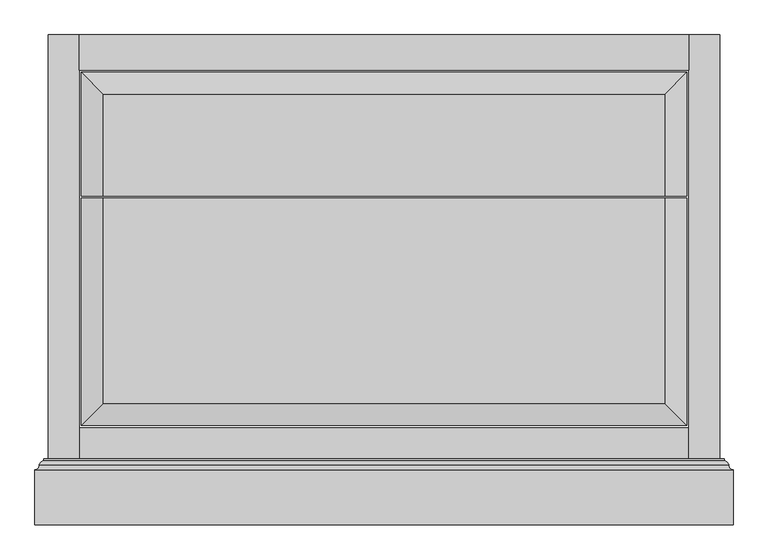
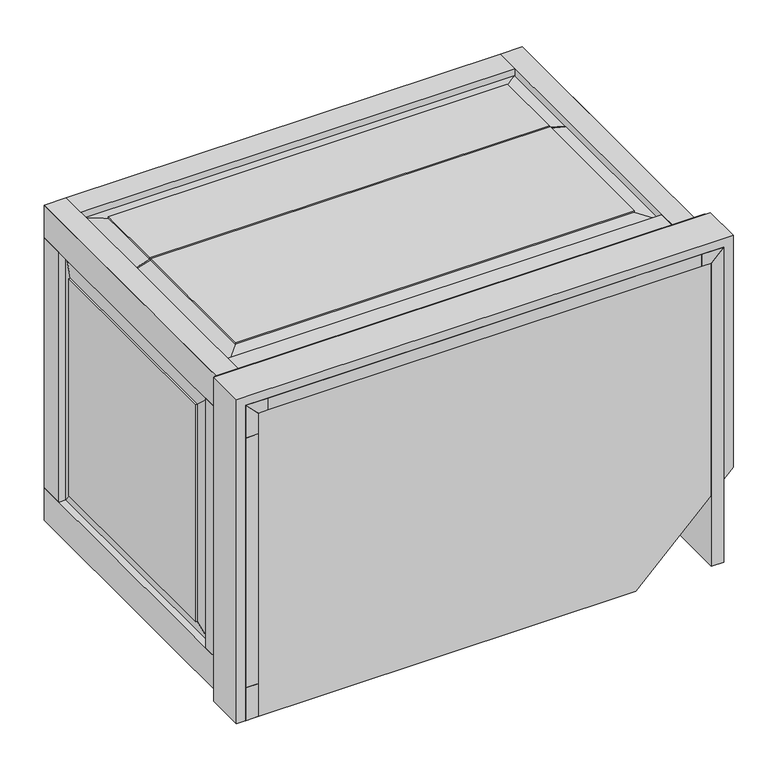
"""IFC4 building model written with IfcOpenShell, lengths in millimetres: proxy geometry, CCN^BRIGHTON_L4-36 LATERA FILE-LEFT PED PARTS SOLID."""

from ifc_helpers import new_model, si_unit, frame, origin, place, context, project, spatial, polyline, circle_curve, ellipse_curve, outline, extrude, faceted_brep, source, transform, mapped, element, save
from ifc_brep_helpers import plane_surface, cylinder_surface, revolved_surface, advanced_brep


def generic_models_85007257(model_context):
    return source(origin(), model_context, "Body", "SolidModel", [
        extrude(outline(polyline([(-2489.2, 0.0), (-2463.8, 0.0), (-2463.8, -50.8), (-2489.2, -50.8), (-2489.2, 0.0)])), frame((0.0, 0.0, -603.25), z_axis=(0.0, 0.0, 1.0), x_axis=(1.0, 0.0, 0.0)), (0.0, 0.0, 1.0), 533.4),
        extrude(outline(polyline([(-1549.4, -584.2), (-2463.8, -584.2), (-2463.8, -565.15), (-1549.4, -565.15), (-1549.4, -584.2)])), frame((0.0, 0.0, -673.1), z_axis=(0.0, 0.0, 1.0), x_axis=(1.0, 0.0, 0.0)), (0.0, 0.0, 1.0), 647.7),
        extrude(outline(polyline([(-2463.8, -704.85), (-2489.2, -704.85), (-2489.2, 0.0), (-2463.8, 0.0), (-2463.8, -704.85)])), frame((0.0, 0.0, -673.1), z_axis=(0.0, 0.0, 1.0), x_axis=(1.0, 0.0, 0.0)), (0.0, 0.0, 1.0), 69.85),
        faceted_brep([(-2486.025, -530.225, -568.325), (-2489.2, -530.225, -568.325), (-2489.2, -85.725, -568.325), (-2486.025, -85.725, -568.325), (-2477.5176131, -561.975, -600.075), (-2477.5176131, -53.975, -600.075), (-2470.15, -561.975, -600.075), (-2470.15, -53.975, -600.075), (-2486.025, -530.225, -104.775), (-2489.2, -530.225, -104.775), (-2477.5176131, -561.975, -73.025), (-2470.15, -561.975, -73.025), (-2470.15, -50.8, -69.85), (-2470.15, -50.8, -603.25), (-2470.15, -565.15, -603.25), (-2470.15, -565.15, -69.85), (-2470.15, -53.975, -73.025), (-2486.025, -85.725, -104.775), (-2489.2, -85.725, -104.775), (-2477.5176131, -53.975, -73.025), (-2463.8, -50.8, -603.25), (-2463.8, -565.15, -603.25), (-2463.8, -565.15, -69.85), (-2463.8, -50.8, -69.85)], [[[0, 1, 2, 3]], [[4, 0, 3, 5]], [[6, 4, 5, 7]], [[8, 9, 1, 0]], [[10, 8, 0, 4]], [[11, 10, 4, 6]], [[12, 13, 14, 15], [16, 11, 6, 7]], [[17, 18, 9, 8]], [[19, 17, 8, 10]], [[16, 19, 10, 11]], [[3, 2, 18, 17]], [[5, 3, 17, 19]], [[7, 5, 19, 16]], [[14, 13, 20, 21]], [[15, 14, 21, 22]], [[13, 12, 23, 20]], [[12, 15, 22, 23]], [[2, 1, 9, 18]], [[22, 21, 20, 23]]]),
        extrude(outline(polyline([(-1568.45, 0.0), (-1568.45, -50.8), (-2444.75, -50.8), (-2444.75, 0.0), (-1568.45, 0.0)])), frame((0.0, 0.0, -25.4), z_axis=(0.0, 0.0, 1.0), x_axis=(1.0, 0.0, 0.0)), (0.0, 0.0, 1.0), 25.4),
        extrude(outline(polyline([(0.0, -2489.2), (-25.4, -2463.8), (-25.4, -2444.75), (0.0, -2444.75), (0.0, -2489.2)])), frame((0.0, -704.85, 0.0), z_axis=(0.0, 1.0, 0.0), x_axis=(0.0, 0.0, 1.0)), (0.0, 0.0, 1.0), 704.85),
        extrude(outline(polyline([(0.0, -1568.45), (-25.4, -1568.45), (-25.4, -1549.4), (0.0, -1524.0), (0.0, -1568.45)])), frame((0.0, -704.85, 0.0), z_axis=(0.0, 1.0, 0.0), x_axis=(0.0, 0.0, 1.0)), (0.0, 0.0, 1.0), 704.85),
        extrude(outline(polyline([(-1568.45, -704.85), (-2444.75, -704.85), (-2444.75, -565.15), (-1568.45, -565.15), (-1568.45, -704.85)])), frame((0.0, 0.0, -25.4), z_axis=(0.0, 0.0, 1.0), x_axis=(1.0, 0.0, 0.0)), (0.0, 0.0, 1.0), 25.4),
        faceted_brep([(-2441.575, -234.95, -11.6823869), (-2409.825, -234.95, -3.175), (-2409.825, -234.95, 0.0), (-1603.375, -234.95, 0.0), (-1603.375, -234.95, -3.175), (-1571.625, -234.95, -11.6823869), (-1571.625, -234.95, -19.05), (-2441.575, -234.95, -19.05), (-2409.825, -530.225, -3.175), (-2409.825, -530.225, 0.0), (-1603.375, -530.225, 0.0), (-1603.375, -530.225, -3.175), (-1571.625, -561.975, -11.6823869), (-2441.575, -561.975, -11.6823869), (-2441.575, -561.975, -19.05), (-1571.625, -561.975, -19.05)], [[[0, 1, 2, 3, 4, 5, 6, 7]], [[2, 1, 8, 9]], [[3, 2, 9, 10]], [[5, 4, 11, 12]], [[1, 0, 13, 8]], [[12, 11, 8, 13]], [[11, 10, 9, 8]], [[4, 3, 10, 11]], [[0, 7, 14, 13]], [[6, 5, 12, 15]], [[12, 13, 14, 15]], [[7, 6, 15, 14]]]),
        faceted_brep([(-2409.825, -231.775, -3.175), (-2409.825, -231.775, 0.0), (-2409.825, -85.725, 0.0), (-2409.825, -85.725, -3.175), (-1603.375, -231.775, 0.0), (-1603.375, -85.725, 0.0), (-1603.375, -231.775, -3.175), (-1571.625, -231.775, -11.6823869), (-1571.625, -53.975, -11.6823869), (-1603.375, -85.725, -3.175), (-2441.575, -231.775, -11.6823869), (-2441.575, -53.975, -11.6823869), (-2441.575, -231.775, -19.05), (-2441.575, -53.975, -19.05), (-1571.625, -231.775, -19.05), (-1571.625, -53.975, -19.05)], [[[0, 1, 2, 3]], [[1, 4, 5, 2]], [[6, 7, 8, 9]], [[10, 0, 3, 11]], [[4, 6, 9, 5]], [[12, 10, 11, 13]], [[7, 14, 15, 8]], [[14, 12, 13, 15]], [[11, 8, 15, 13]], [[3, 2, 5, 9]], [[11, 3, 9, 8]], [[0, 10, 12, 14, 7, 6, 4, 1]]]),
        extrude(outline(polyline([(-2463.8, 0.0), (-1549.4, 0.0), (-1549.4, -19.05), (-2463.8, -19.05), (-2463.8, 0.0)])), frame((0.0, 0.0, -673.1), z_axis=(0.0, 0.0, 1.0), x_axis=(1.0, 0.0, 0.0)), (0.0, 0.0, 1.0), 647.7),
        extrude(outline(polyline([(0.0, -1524.0), (-25.4, -1549.4), (-673.1, -1549.4), (-673.1, -1524.0), (0.0, -1524.0)])), frame((0.0, -704.85, 0.0), z_axis=(0.0, 1.0, 0.0), x_axis=(0.0, 0.0, 1.0)), (0.0, 0.0, 1.0), 704.85),
        extrude(outline(polyline([(-2463.8, -704.85), (-2489.2, -704.85), (-2489.2, -565.15), (-2463.8, -565.15), (-2463.8, -704.85)])), frame((0.0, 0.0, -603.25), z_axis=(0.0, 0.0, 1.0), x_axis=(1.0, 0.0, 0.0)), (0.0, 0.0, 1.0), 533.4),
        extrude(outline(polyline([(-69.85, -2463.8), (-25.4, -2463.8), (0.0, -2489.2), (-69.85, -2489.2), (-69.85, -2463.8)])), frame((0.0, -704.85, 0.0), z_axis=(0.0, 1.0, 0.0), x_axis=(0.0, 0.0, 1.0)), (0.0, 0.0, 1.0), 704.85),
        advanced_brep(
        [(-1701.8, -704.85, -673.1), (-1701.8, -609.6, -673.1), (-1517.65, -609.6, -488.95), (-1517.65, -612.775, -488.95), (-1511.3, -619.125, -482.6), (-1504.95, -625.475, -476.25), (-1504.95, -704.85, -476.25), (-1511.3, -619.125, 12.7), (-1504.95, -625.475, 19.05), (-1504.95, -704.85, 19.05), (-2508.25, -704.85, 19.05), (-2508.25, -704.85, -673.1), (-1517.65, -612.775, 6.35), (-1517.65, -609.6, 6.35), (-2501.9, -619.125, 12.7), (-2508.25, -625.475, 19.05), (-2495.55, -612.775, 6.35), (-2495.55, -609.6, 6.35), (-2501.9, -619.125, -673.1), (-2508.25, -625.475, -673.1), (-2495.55, -612.775, -673.1), (-2495.55, -609.6, -673.1)],
        [
            (0, 1),
            (1, 2),
            (2, 3),
            (3, 4, ellipse_curve(frame((-1517.65, -619.125, -488.95), z_axis=(0.7071067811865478, 0.0, -0.7071067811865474), x_axis=(0.7071067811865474, 0.0, 0.7071067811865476)), 8.9802561, 6.35)),
            (4, 5, ellipse_curve(frame((-1504.95, -619.125, -476.25), z_axis=(-0.7071067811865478, 0.0, 0.7071067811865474), x_axis=(0.7071067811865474, 0.0, 0.7071067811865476)), 8.9802561, 6.35)),
            (5, 6),
            (6, 0),
            (4, 7),
            (7, 8, ellipse_curve(frame((-1504.95, -619.125, 19.05), z_axis=(-0.7071067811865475, 0.0, 0.7071067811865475), x_axis=(0.7071067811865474, 0.0, 0.7071067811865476)), 8.9802561, 6.35)),
            (8, 5),
            (8, 9),
            (9, 6),
            (9, 10),
            (10, 11),
            (11, 0),
            (3, 12),
            (12, 7, ellipse_curve(frame((-1517.65, -619.125, 6.35), z_axis=(0.7071067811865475, 0.0, -0.7071067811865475), x_axis=(0.7071067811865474, 0.0, 0.7071067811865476)), 8.9802561, 6.35)),
            (2, 13),
            (13, 12),
            (14, 15, ellipse_curve(frame((-2508.25, -619.125, 19.05), z_axis=(-0.7071067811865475, 0.0, -0.7071067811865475), x_axis=(-0.7071067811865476, 0.0, 0.7071067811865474)), 8.9802561, 6.35)),
            (15, 8),
            (7, 14),
            (16, 14, ellipse_curve(frame((-2495.55, -619.125, 6.35), z_axis=(0.7071067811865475, 0.0, 0.7071067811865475), x_axis=(-0.7071067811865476, 0.0, 0.7071067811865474)), 8.9802561, 6.35)),
            (12, 16),
            (17, 16),
            (13, 17),
            (18, 19, circle_curve(frame((-2508.25, -619.125, -673.1), z_axis=(0.0, 0.0, -1.0), x_axis=(0.0, -1.0, 0.0)), 6.35)),
            (19, 15),
            (14, 18),
            (20, 18, circle_curve(frame((-2495.55, -619.125, -673.1), z_axis=(0.0, 0.0, 1.0), x_axis=(0.0, -1.0, 0.0)), 6.35)),
            (16, 20),
            (21, 20),
            (17, 21),
            (1, 21),
            (11, 19),
            (10, 15),
        ],
        [
            plane_surface(frame((-1514.475, -704.85, -485.775), z_axis=(0.7071067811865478, 0.0, -0.7071067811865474), x_axis=(0.7071067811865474, 0.0, 0.7071067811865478))),
            revolved_surface(polyline([(-1498.6000000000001, -619.125, 25.39999998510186), (-1498.6000000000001, -619.125, -482.6)]), (-1504.95, -619.125, 19.05), (0.0, 0.0, 1.0)),
            plane_surface(frame((-1504.95, -704.85, -495.3), z_axis=(1.0, 0.0, 0.0), x_axis=(0.0, 0.0, 1.0))),
            plane_surface(frame((-2006.6, -704.85, -327.025), z_axis=(0.0, -1.0, 0.0), x_axis=(0.0, 0.0, -1.0))),
            cylinder_surface(frame((-1517.65, -619.125, 6.35), z_axis=(0.0, 0.0, 1.0), x_axis=(1.0, 0.0, 0.0)), 6.35),
            plane_surface(frame((-1517.65, -609.6, 6.35), z_axis=(1.0, 0.0, 0.0), x_axis=(0.0, -1.0, 0.0))),
            revolved_surface(polyline([(-2514.599999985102, -619.125, 25.4), (-1498.6000000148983, -619.125, 25.4)]), (-2508.25, -619.125, 19.05), (-1.0, 0.0, 0.0)),
            cylinder_surface(frame((-2495.55, -619.125, 6.35), z_axis=(-1.0, 0.0, 0.0), x_axis=(0.0, 0.0, 1.0)), 6.35),
            plane_surface(frame((-2495.55, -609.6, 6.35), z_axis=(0.0, 0.0, 1.0), x_axis=(0.0, -1.0, 0.0))),
            revolved_surface(polyline([(-2508.25, -625.475, -673.1), (-2508.25, -625.475, 25.399999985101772)]), (-2508.25, -619.125, -673.1), (0.0, 0.0, -1.0)),
            cylinder_surface(frame((-2495.55, -619.125, -673.1), z_axis=(0.0, 0.0, -1.0), x_axis=(0.0, -1.0, 0.0)), 6.35),
            plane_surface(frame((-2495.55, -609.6, -673.1), z_axis=(-1.0, 0.0, 0.0), x_axis=(0.0, -1.0, 0.0))),
            plane_surface(frame((-2006.6, -609.6, -327.025), z_axis=(0.0, 1.0, 0.0), x_axis=(0.0, 0.0, 1.0))),
            plane_surface(frame((-2508.25, -704.85, -673.1), z_axis=(0.0, 0.0, -1.0), x_axis=(1.0, 0.0, 0.0))),
            plane_surface(frame((-2508.25, -704.85, 19.05), z_axis=(-1.0, 0.0, 0.0), x_axis=(0.0, 0.0, -1.0))),
            plane_surface(frame((-1504.95, -704.85, 19.05), z_axis=(0.0, 0.0, 1.0), x_axis=(-1.0, 0.0, 0.0))),
        ],
        [
            (0, [[1, 2, 3, 4, 5, 6, 7]]),
            (1, [[-5, 8, 9, 10]]),
            (2, [[-6, -10, 11, 12]]),
            (3, [[-7, -12, 13, 14, 15]]),
            (4, [[-4, 16, 17, -8]]),
            (5, [[-3, 18, 19, -16]]),
            (6, [[20, 21, -9, 22]]),
            (7, [[23, -22, -17, 24]]),
            (8, [[25, -24, -19, 26]]),
            (9, [[27, 28, -20, 29]]),
            (10, [[30, -29, -23, 31]]),
            (11, [[32, -31, -25, 33]]),
            (12, [[-2, 34, -33, -26, -18]]),
            (13, [[-27, -30, -32, -34, -1, -15, 35]]),
            (14, [[-28, -35, -14, 36]]),
            (15, [[-21, -36, -13, -11]]),
        ],
    ),
    ])


if __name__ == "__main__":
    model = new_model("IFC4")
    model_context = context("Model", 3, world=origin())
    ifc_project = project(units=[si_unit("LENGTHUNIT", "METRE", prefix="MILLI")], contexts=[model_context])
    site = spatial("IfcSite", under=ifc_project)
    building = spatial("IfcBuilding", under=site)
    placement = place(None, origin())
    generic_models_shape = generic_models_85007257(model_context)
    element("IfcBuildingElementProxy", 1, Name="CCN^BRIGHTON_L4-36 LATERA FILE-LEFT PED PARTS SOLID", ObjectType="CCN^BRIGHTON_L4-36 LATERA FILE-LEFT PED PARTS SOLID", at=placement, inside=building, context=model_context, shape_type="MappedRepresentation", body=[
        mapped(generic_models_shape, transform((0.0, 0.0, 0.0), x_axis=(1.0, 0.0, 0.0), y_axis=(0.0, 1.0, 0.0), z_axis=(0.0, 0.0, 1.0))),
    ])
    save(model, "model.ifc")
